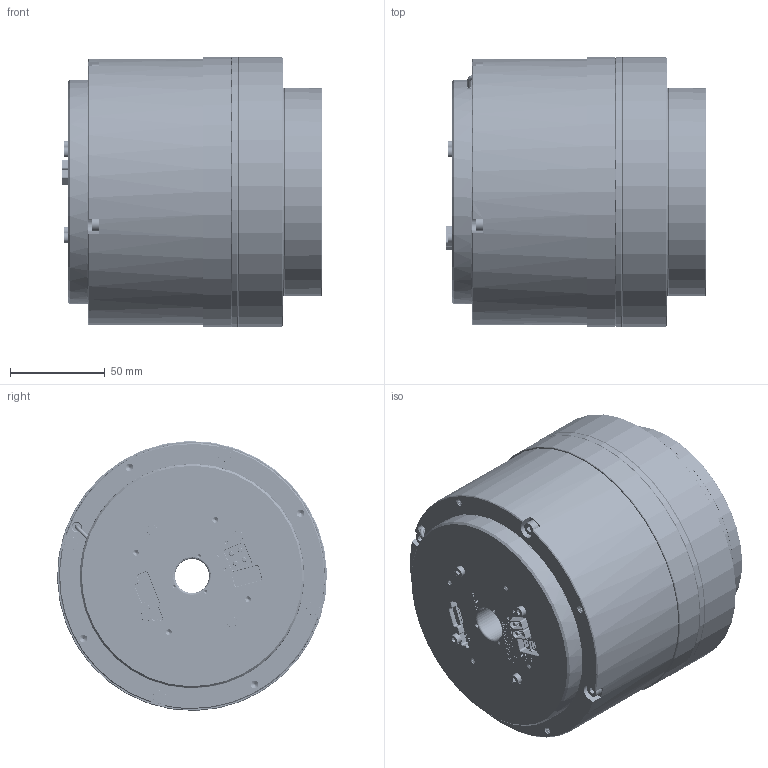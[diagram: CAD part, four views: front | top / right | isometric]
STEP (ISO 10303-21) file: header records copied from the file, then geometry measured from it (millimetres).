
FILE_DESCRIPTION (( 'STEP AP203' ), '1' );
FILE_NAME ('eRob142H｡ﾁ｡ﾁI-XX-18CX_V4_MC2B.DX.XX.step', '2024-05-21T10:22:31', ( 'Windows User' ), ( 'P R C' ), 'SwSTEP 2.0', 'SolidWorks 2021', '' );
FILE_SCHEMA (( 'CONFIG_CONTROL_DESIGN' ));
Length unit declared in the file: millimetre
Products named in the file (1): eRob142H××I-XX-18CX_V4_MC2B.DX.XX
Bounding box: 137.3 x 142 x 142 mm (x, y, z)
Volume: 1840771.5 mm3; surface area: 124172.4 mm2
Topology: 1 solids, 1 shells, 4430 faces, 12048 edges, 7832 vertices
Faces by surface type: plane 2012, cylinder 1777, bspline 433, cone 160, torus 48
Entity records: 315802 total; most frequent: CARTESIAN_POINT 213766, ORIENTED_EDGE 23908, DIRECTION 18009, EDGE_CURVE 11954, VERTEX_POINT 7832, VECTOR 7055, LINE 7055, AXIS2_PLACEMENT_3D 5477
